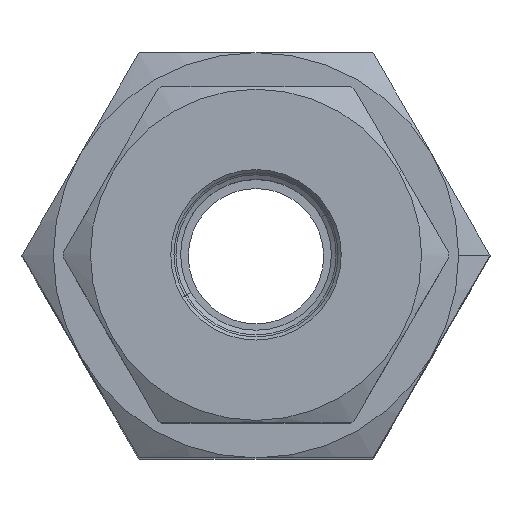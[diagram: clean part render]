
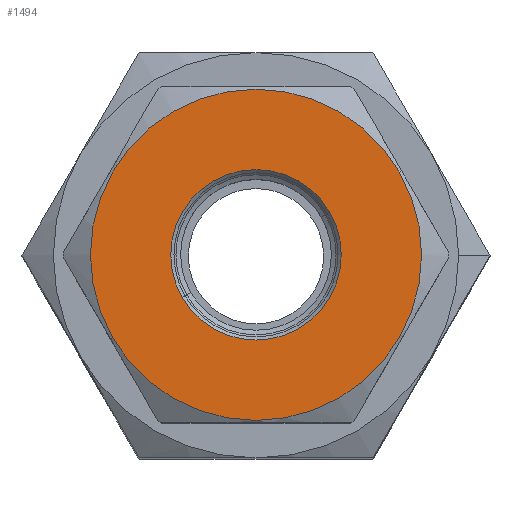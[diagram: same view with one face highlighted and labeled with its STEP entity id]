
A CAD part, top view. The second image highlights one B-rep face of the part: STEP entity #1494.
In plain terms, the highlighted planar face has unit normal (0, 0, 1).
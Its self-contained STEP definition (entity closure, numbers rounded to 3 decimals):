
#387 = CIRCLE ( 'NONE', #17679, 16.75 ) ;
#409 = DIRECTION ( 'NONE',  ( 0., 0., 1. ) ) ;
#1385 = CIRCLE ( 'NONE', #7101, 8.625 ) ;
#1494 = ADVANCED_FACE ( 'NONE', ( #10381, #1934 ), #4933, .T. ) ;
#1934 = FACE_OUTER_BOUND ( 'NONE', #17733, .T. ) ;
#2216 = CIRCLE ( 'NONE', #6890, 8.625 ) ;
#2729 = DIRECTION ( 'NONE',  ( 0.866, 0.5, 0. ) ) ;
#3726 = DIRECTION ( 'NONE',  ( 0., 0., -1. ) ) ;
#3902 = ORIENTED_EDGE ( 'NONE', *, *, #12632, .T. ) ;
#4134 = CARTESIAN_POINT ( 'NONE',  ( 0., 0., 69.25 ) ) ;
#4459 = DIRECTION ( 'NONE',  ( 0.866, 0.5, 0. ) ) ;
#4481 = DIRECTION ( 'NONE',  ( 0., 0., 1. ) ) ;
#4616 = CARTESIAN_POINT ( 'NONE',  ( 0., 0., 69.25 ) ) ;
#4636 = CARTESIAN_POINT ( 'NONE',  ( 0., 0., 69.25 ) ) ;
#4740 = EDGE_LOOP ( 'NONE', ( #7261, #5795 ) ) ;
#4933 = PLANE ( 'NONE',  #15208 ) ;
#5418 = EDGE_CURVE ( 'NONE', #17966, #14762, #387, .T. ) ;
#5795 = ORIENTED_EDGE ( 'NONE', *, *, #18916, .T. ) ;
#6205 = DIRECTION ( 'NONE',  ( 0.866, 0.5, 0. ) ) ;
#6890 = AXIS2_PLACEMENT_3D ( 'NONE', #4636, #15776, #6205 ) ;
#7101 = AXIS2_PLACEMENT_3D ( 'NONE', #13219, #3726, #14832 ) ;
#7110 = CARTESIAN_POINT ( 'NONE',  ( 7.469, 4.313, 69.25 ) ) ;
#7261 = ORIENTED_EDGE ( 'NONE', *, *, #14514, .T. ) ;
#8727 = CARTESIAN_POINT ( 'NONE',  ( 0., 0., 69.25 ) ) ;
#10341 = DIRECTION ( 'NONE',  ( 0.866, 0.5, 0. ) ) ;
#10381 = FACE_BOUND ( 'NONE', #4740, .T. ) ;
#12632 = EDGE_CURVE ( 'NONE', #14762, #17966, #19315, .T. ) ;
#12652 = VERTEX_POINT ( 'NONE', #7110 ) ;
#12757 = CARTESIAN_POINT ( 'NONE',  ( -7.469, -4.313, 69.25 ) ) ;
#13032 = AXIS2_PLACEMENT_3D ( 'NONE', #8727, #19923, #10341 ) ;
#13219 = CARTESIAN_POINT ( 'NONE',  ( 0., 0., 69.25 ) ) ;
#14514 = EDGE_CURVE ( 'NONE', #12652, #14970, #2216, .T. ) ;
#14762 = VERTEX_POINT ( 'NONE', #20121 ) ;
#14832 = DIRECTION ( 'NONE',  ( 0.866, 0.5, 0. ) ) ;
#14970 = VERTEX_POINT ( 'NONE', #12757 ) ;
#15208 = AXIS2_PLACEMENT_3D ( 'NONE', #4616, #4481, #4459 ) ;
#15776 = DIRECTION ( 'NONE',  ( 0., 0., -1. ) ) ;
#15860 = CARTESIAN_POINT ( 'NONE',  ( 14.506, 8.375, 69.25 ) ) ;
#17679 = AXIS2_PLACEMENT_3D ( 'NONE', #4134, #409, #2729 ) ;
#17733 = EDGE_LOOP ( 'NONE', ( #3902, #18741 ) ) ;
#17966 = VERTEX_POINT ( 'NONE', #15860 ) ;
#18741 = ORIENTED_EDGE ( 'NONE', *, *, #5418, .T. ) ;
#18916 = EDGE_CURVE ( 'NONE', #14970, #12652, #1385, .T. ) ;
#19315 = CIRCLE ( 'NONE', #13032, 16.75 ) ;
#19923 = DIRECTION ( 'NONE',  ( 0., 0., 1. ) ) ;
#20121 = CARTESIAN_POINT ( 'NONE',  ( -14.506, -8.375, 69.25 ) ) ;
